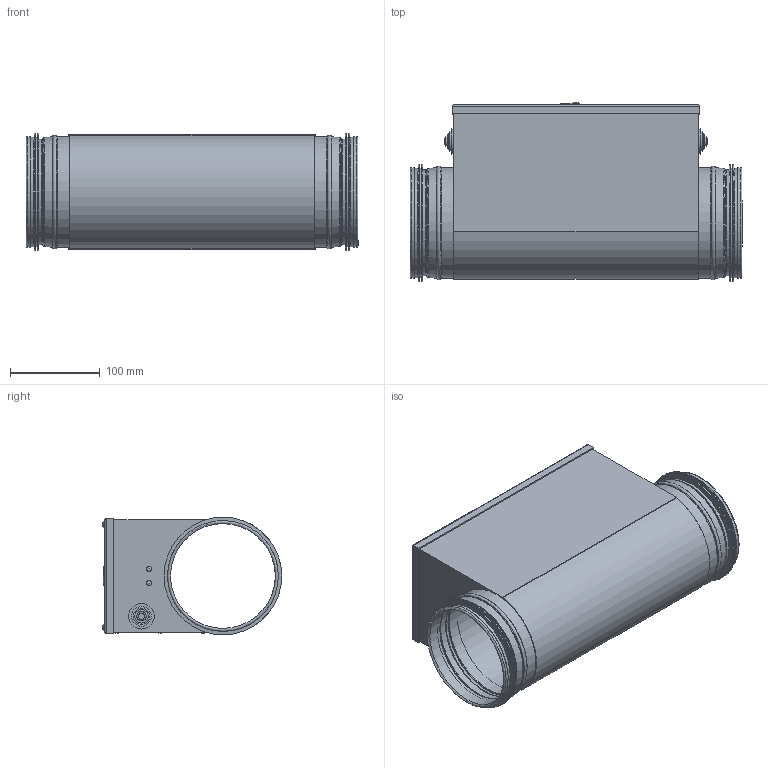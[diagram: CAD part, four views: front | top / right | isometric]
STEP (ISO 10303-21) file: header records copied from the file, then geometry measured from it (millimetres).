
FILE_DESCRIPTION(/* description */ (''),/* implementation_level */ '2;1');
FILE_NAME(/* name */ 'C:\WF Home\Thomas Mønsted\01 - Ventilation\Ventmatica\063222 - 230V Ø125 on_off _max. 900 watt.stp',/* time_stamp */ '2020-05-14T13:39:51+02:00',/* author */ ('3113thmo'),/* organization */ (''),/* preprocessor_version */ 'ST-DEVELOPER v16.13',/* originating_system */ 'Autodesk Inventor 2018',/* authorisation */ '');
FILE_SCHEMA (('AUTOMOTIVE_DESIGN { 1 0 10303 214 3 1 1 }'));
Length unit declared in the file: millimetre
Products named in the file (1): 063222 - 230V Ø125 on_off _max. 900 watt
Bounding box: 370 x 200 x 131.1 mm (x, y, z)
Volume: 3094337.7 mm3; surface area: 388287.3 mm2
Topology: 2 solids, 3 shells, 351 faces, 888 edges, 583 vertices
Faces by surface type: plane 186, bspline 73, cylinder 56, torus 22, cone 12, sphere 2
Full cylindrical faces by diameter (mm): 7 x2, 8.2 x2, 10 x1, 10.5 x2, 12 x1, 15 x2, 18 x2, 22 x2, 28.5 x2, 116.7 x2, 118.1 x2, 122.1 x5, 123.5 x4, 131.1 x4
Entity records: 12622 total; most frequent: CARTESIAN_POINT 4284, ORIENTED_EDGE 1594, DIRECTION 1570, EDGE_CURVE 797, AXIS2_PLACEMENT_3D 622, VERTEX_POINT 567, EDGE_LOOP 468, FACE_OUTER_BOUND 351
